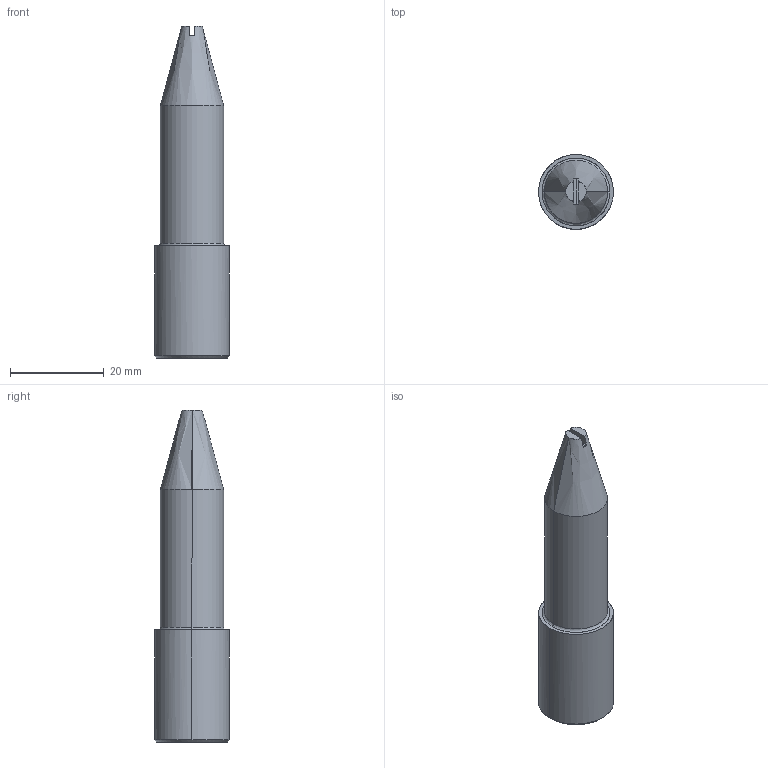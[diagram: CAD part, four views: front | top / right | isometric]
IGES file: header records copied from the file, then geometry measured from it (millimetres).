
Global section: file name: E:\UnigraphicsGraphicData\MISUMI_PRESS-PARTS\IGES\3d_sdsth16-p13.50-b30_02970_r00.igs; native system: NX V5.0; preprocessor: UGS NX IGES V5.0; author: MISUMI; date: 20110105.162518; units: millimetre
Bounding box: 16 x 16 x 71 mm (x, y, z)
Surface area: 3868.6 mm2 (no closed solid volume)
Topology: 0 solids, 0 shells, 21 faces, 124 edges, 124 vertices
Faces by surface type: bspline 21
